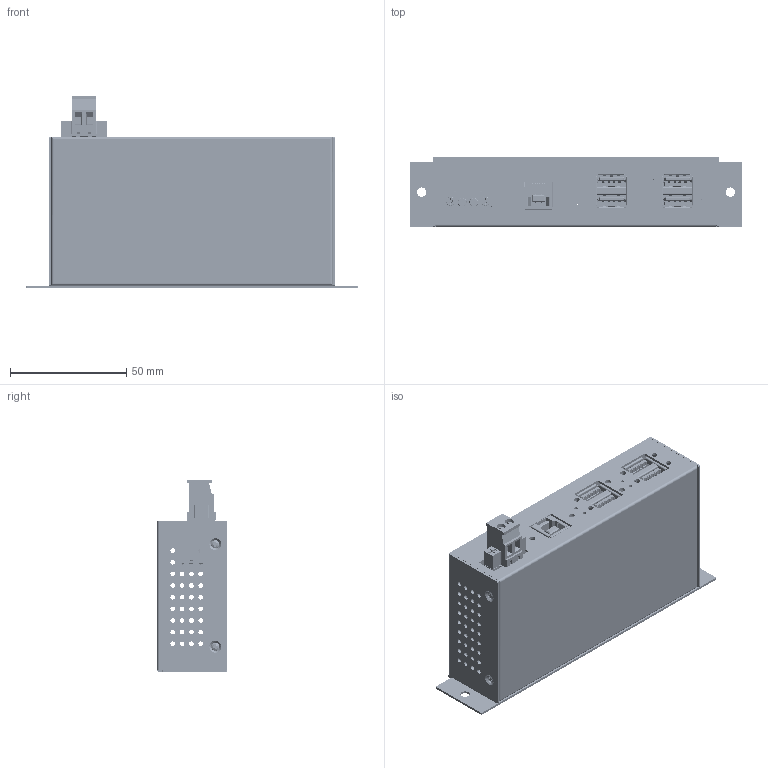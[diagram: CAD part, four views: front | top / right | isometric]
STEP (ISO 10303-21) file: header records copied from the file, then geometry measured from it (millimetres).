
FILE_DESCRIPTION (( 'STEP AP214' ), '1' );
FILE_NAME ('14440B .STEP', '2026-10-01T11:06:41', ( '' ), ( '' ), 'SwSTEP 2.0', 'SolidWorks 2016', '' );
FILE_SCHEMA (( 'AUTOMOTIVE_DESIGN' ));
Length unit declared in the file: millimetre
Products named in the file (63): 5.55; 691345710002_08; User Library-GSB311231HR_usb3_stacked_REAR_SHELL__W___ANY; User Library-GSB311231HR_usb3_stacked_USB3_CONT_DIP_T5-1__W___ANY; 692221030100_07; 691345710002_05; 692221030100_11; 691345710002_10; User Library-GSB311231HR_usb3_stacked_USB2_CONTACT_DIP_T4-1__W___AN_1; 691345710002_09; User Library-GSB311231HR_usb3_stacked_ISNERT_MOLD_TOP_ASM__W___ANY; 692221030100_13; 691345710002; User Library-GSB311231HR_usb3_stacked_USB3_CONT_DIP_T5-2__W___ANY__W_; User Library-GSB311231HR_usb3_stacked_USB3_HOUSING-_X3_H_USB3_0HOUSIN; 692221030100_04; User Library-GSB311231HR_usb3_stacked_USB3_CONT_DIP_T5-3__W___ANY__W_; User Library-GSB311231HR_usb3_stacked_USB2_CONTACT_DIP_T4-3__W-114027; 70329865 modified; User Library-GSB311231HR_usb3_stacked_USB3_CONT_DIP_T5-4__W___ANY___1; User Library-GSB311231HR_usb3_stacked_USB3_CONT_TOP_9__W___ANY; User Library-GSB311231HR_usb3_stacked_USB2_CONTACT_DIP_T4-3__W-1140_1; 691345710002_07; User Library-GSB311231HR_usb3_stacked_USR3_0__W___ANY; User Library-GSB311231HR_usb3_stacked_USB3_HOUSING-_X3__W___ANY; User Library-GSB311231HR_usb3_stacked_COVER_USB3_0-3_0__W___ANY; 691345710002_03; 692221030100; 14440B BOTTOM; User Library-GSB311231HR_usb3_stacked_USB3_CONT_TOP_5__W___ANY; User Library-GSB311231HR_usb3_stacked_HOUSING_STACKED_1__W___ANY; 692221030100_14; 692221030100_01; 14345 screw; User Library-GSB311231HR_usb3_stacked_USB2_CONTACT_DIP_T4-1__W___ANY2; 692221030100_05; User Library-GSB311231HR_usb3_stacked____S_-USB2_CONTACT_DIP_T4-3___1; 692221030100_10; User Library-GSB311231HR_usb3_stacked_USB3_CONT_TOP_6__W___ANY; User Library-GSB311231HR_usb3_stacked_USB2_0_CONT__W___ANY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
Assembly tree (69 placements, depth 5):
  14440B 
    14440B PCBªO
    5.55  x4
    692221030100
      692221030100_01
      692221030100_02
      692221030100_03
      692221030100_04
      692221030100_05
      692221030100_06
      692221030100_07
      692221030100_08
      692221030100_09
      692221030100_10
      692221030100_11
      692221030100_12
      692221030100_13
      692221030100_14
    User Library-GSB311231HR_usb3_stacked  x2
      User Library-GSB311231HR_usb3_stacked_HOUSING_STACKED_1__W___ANY
      User Library-GSB311231HR_usb3_stacked_USB3_STACKED_SHELL__W___ANY
      User Library-GSB311231HR_usb3_stacked_COVER_USB3_0-3_0__W___ANY
      User Library-GSB311231HR_usb3_stacked_REAR_SHELL__W___ANY
      User Library-GSB311231HR_usb3_stacked_USB3_MID_SHELL_2__W___ANY
      User Library-GSB311231HR_usb3_stacked_USR3_0__W___ANY
        User Library-GSB311231HR_usb3_stacked_USB3_HOUSING-_X3__W___ANY
        User Library-GSB311231HR_usb3_stacked_USB2_0_CONT__W___ANY
          User Library-GSB311231HR_usb3_stacked_USB2_CONTACT_DIP_T4-3__W-113877
          User Library-GSB311231HR_usb3_stacked_USB2_CONTACT_DIP_T4-1__W___ANY2
          User Library-GSB311231HR_usb3_stacked_USB2_CONTACT_DIP_T4-3__W-1138_1
          User Library-GSB311231HR_usb3_stacked_USB2_CONTACT_DIP_T4-1__W___AN_1
        User Library-GSB311231HR_usb3_stacked_USB3_0_CONT__W___ANY
          User Library-GSB311231HR_usb3_stacked_USB3_CONT_DIP_T5-3__W___ANY__W_
          User Library-GSB311231HR_usb3_stacked_USB3_CONT_DIP_T5-4__W___ANY__W_
          User Library-GSB311231HR_usb3_stacked_USB3_CONT_DIP_T5-4__W___ANY___1
          User Library-GSB311231HR_usb3_stacked_USB3_CONT_DIP_T5-1__W___ANY
          User Library-GSB311231HR_usb3_stacked_USB3_CONT_DIP_T5-2__W___ANY__W_
      User Library-GSB311231HR_usb3_stacked_ISNERT_MOLD_TOP_ASM__W___ANY
        User Library-GSB311231HR_usb3_stacked_USB3_CONT_TOP_6__W___ANY
        User Library-GSB311231HR_usb3_stacked_USB3_CONT_TOP_8__W___ANY
        User Library-GSB311231HR_usb3_stacked____S_-USB2_CONTACT_DIP_T4-3__W_
        User Library-GSB311231HR_usb3_stacked_USB2_CONTACT_DIP_T4-3__W-114027
        User Library-GSB311231HR_usb3_stacked_USB3_HOUSING-_X3_H_USB3_0HOUSIN
        User Library-GSB311231HR_usb3_stacked____S_-USB2_CONTACT_DIP_T4-3___1
        User Library-GSB311231HR_usb3_stacked_USB3_CONT_TOP_9__W___ANY
        User Library-GSB311231HR_usb3_stacked_USB2_CONTACT_DIP_T4-3__W-1140_1
        User Library-GSB311231HR_usb3_stacked_USB3_CONT_TOP_5__W___ANY
        User Library-GSB311231HR_usb3_stacked_USB3_CONT_TOP_7__W___ANY
    14345 screw  x4
    14440B BOTTOM
    14440B TOP
    70329865 modified
    691345710002
      691345710002_01
      691345710002_02
      691345710002_03
      691345710002_04
      691345710002_05
      691345710002_06
      691345710002_07
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Bounding box: 142.5 x 30 x 82.7 mm (x, y, z)
Volume: 45643.7 mm3; surface area: 98350.2 mm2
Topology: 116 solids, 118 shells, 9033 faces, 25058 edges, 16162 vertices
Faces by surface type: plane 6146, cylinder 2487, bspline 316, cone 52, torus 32
Entity records: 206683 total; most frequent: CARTESIAN_POINT 46433, ORIENTED_EDGE 30476, DIRECTION 26937, EDGE_CURVE 15242, LINE 11265, VECTOR 11265, VERTEX_POINT 9856, AXIS2_PLACEMENT_3D 7836
